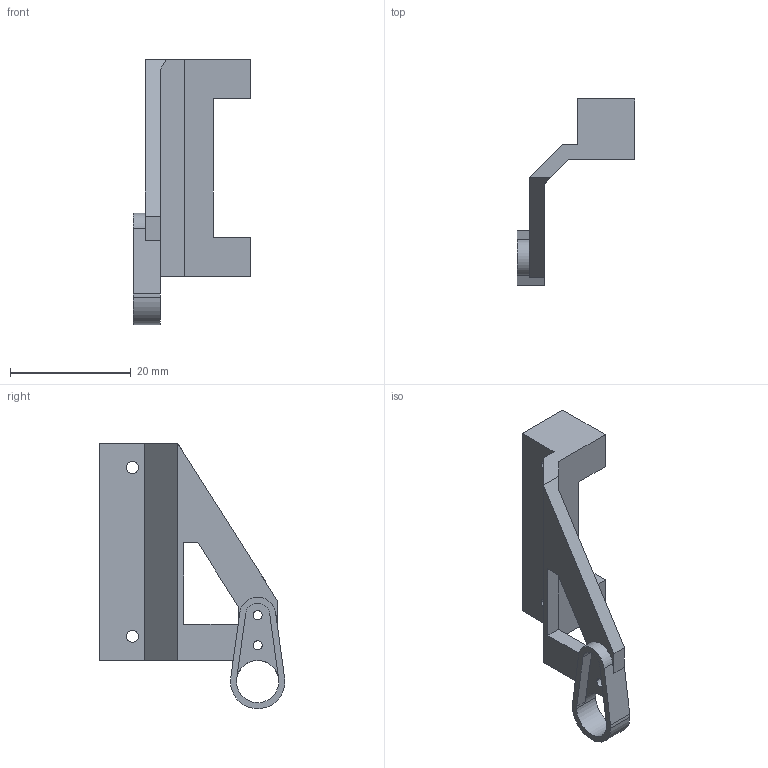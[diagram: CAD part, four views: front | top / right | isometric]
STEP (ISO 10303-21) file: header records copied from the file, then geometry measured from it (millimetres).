
FILE_DESCRIPTION (( 'STEP AP203' ), '1' );
FILE_NAME ('衵旋.ST', '2026-09-16T02:58:46', ( '' ), ( '' ), 'SwSTEP 2.0', 'SolidWorks 2024', '' );
FILE_SCHEMA (( 'CONFIG_CONTROL_DESIGN' ));
Length unit declared in the file: millimetre
Products named in the file (1): 右臂
Bounding box: 19.5 x 30.77 x 44 mm (x, y, z)
Volume: 3450.6 mm3; surface area: 3351.6 mm2
Topology: 1 solids, 1 shells, 56 faces, 159 edges, 103 vertices
Faces by surface type: plane 41, cylinder 15
Entity records: 1904 total; most frequent: CARTESIAN_POINT 319, ORIENTED_EDGE 318, DIRECTION 305, EDGE_CURVE 159, VECTOR 127, LINE 127, VERTEX_POINT 103, AXIS2_PLACEMENT_3D 89
